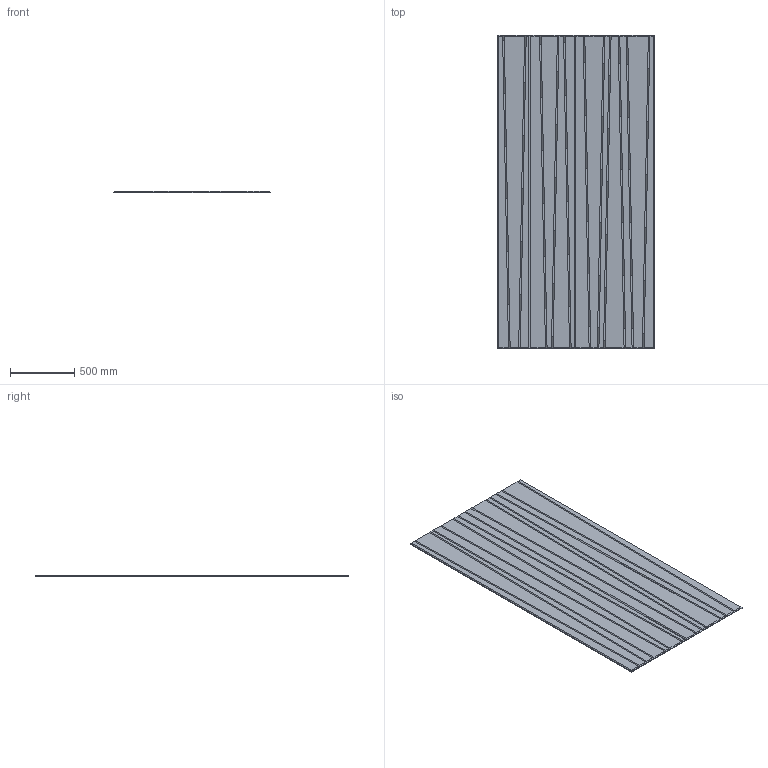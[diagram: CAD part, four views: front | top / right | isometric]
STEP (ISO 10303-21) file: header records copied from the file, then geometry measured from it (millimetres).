
FILE_DESCRIPTION(/* description */ (''),/* implementation_level */ '2;1');
FILE_NAME(/* name */ 'Y:\Design and Engineering\MaterialLogiq\CAD ASSETS\MASTER\PET ENGRAVED\WEB ASSETS\Organic 1.stp',/* time_stamp */ '2024-09-04T15:53:45-05:00',/* author */ ('Grant Baker'),/* organization */ (''),/* preprocessor_version */ 'ST-DEVELOPER v19',/* originating_system */ 'Autodesk Inventor 2023',/* authorisation */ '');
FILE_SCHEMA (('AUTOMOTIVE_DESIGN { 1 0 10303 214 3 1 1 }'));
Length unit declared in the file: inch
Products named in the file (1): Organic 1
Bounding box: 1219.2 x 2438.4 x 12.7 mm (x, y, z)
Volume: 36334707.7 mm3; surface area: 6177330.7 mm2
Topology: 1 solids, 1 shells, 75 faces, 163 edges, 90 vertices
Faces by surface type: plane 75
Entity records: 1974 total; most frequent: CARTESIAN_POINT 329, ORIENTED_EDGE 326, DIRECTION 315, LINE 163, VECTOR 163, EDGE_CURVE 163, VERTEX_POINT 90, AXIS2_PLACEMENT_3D 76
